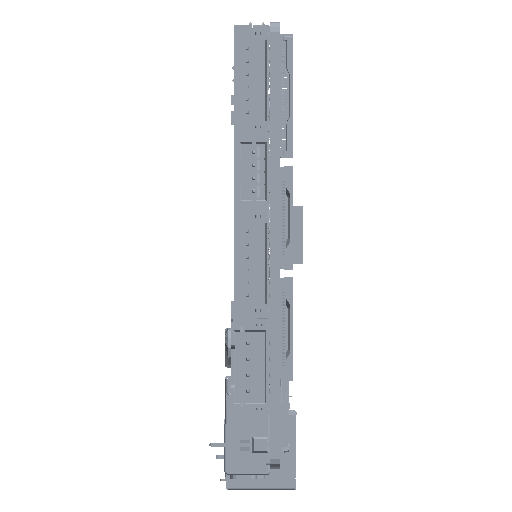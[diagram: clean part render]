
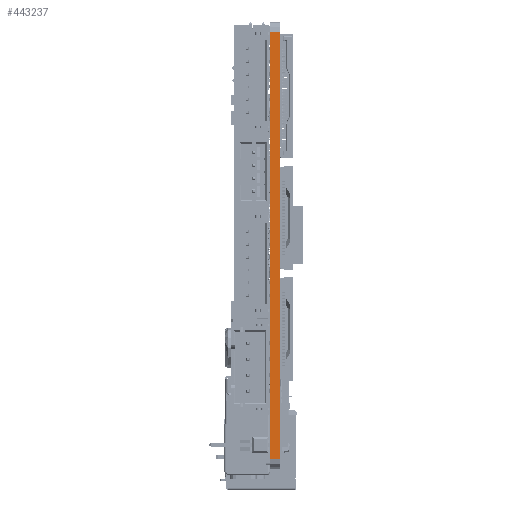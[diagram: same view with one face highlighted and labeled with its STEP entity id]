
A CAD part, left-side view. The second image highlights one B-rep face of the part: STEP entity #443237.
In plain terms, the highlighted planar face has unit normal (-1, 0, 0).
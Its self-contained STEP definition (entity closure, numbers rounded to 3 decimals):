
#23522 = VECTOR ( 'NONE', #890152, 1000. ) ;
#42973 = VERTEX_POINT ( 'NONE', #96140 ) ;
#82965 = AXIS2_PLACEMENT_3D ( 'NONE', #762754, #681545, #419094 ) ;
#96140 = CARTESIAN_POINT ( 'NONE',  ( 0., -1.6, -68.5 ) ) ;
#112580 = CARTESIAN_POINT ( 'NONE',  ( 0., 0., -1.5 ) ) ;
#130734 = EDGE_LOOP ( 'NONE', ( #786630, #618985, #565230, #588665 ) ) ;
#158993 = DIRECTION ( 'NONE',  ( 0., 1., 0. ) ) ;
#195124 = LINE ( 'NONE', #208401, #636826 ) ;
#204311 = VERTEX_POINT ( 'NONE', #531403 ) ;
#208401 = CARTESIAN_POINT ( 'NONE',  ( 0., -1.6, -1.5 ) ) ;
#229747 = DIRECTION ( 'NONE',  ( 0., 0., 1. ) ) ;
#371449 = LINE ( 'NONE', #792022, #479695 ) ;
#393423 = EDGE_CURVE ( 'NONE', #762600, #688316, #195124, .T. ) ;
#419094 = DIRECTION ( 'NONE',  ( 0., 0., 1. ) ) ;
#438738 = EDGE_CURVE ( 'NONE', #204311, #688316, #682064, .T. ) ;
#443237 = ADVANCED_FACE ( 'NONE', ( #889623 ), #554720, .T. ) ;
#447206 = VECTOR ( 'NONE', #229747, 1000. ) ;
#475305 = EDGE_CURVE ( 'NONE', #42973, #204311, #371449, .T. ) ;
#479695 = VECTOR ( 'NONE', #158993, 1000. ) ;
#531403 = CARTESIAN_POINT ( 'NONE',  ( 0., 0., -68.5 ) ) ;
#554720 = PLANE ( 'NONE',  #82965 ) ;
#565230 = ORIENTED_EDGE ( 'NONE', *, *, #614265, .T. ) ;
#569044 = LINE ( 'NONE', #700327, #447206 ) ;
#575597 = CARTESIAN_POINT ( 'NONE',  ( 0., -1.6, -1.5 ) ) ;
#588665 = ORIENTED_EDGE ( 'NONE', *, *, #393423, .T. ) ;
#614198 = CARTESIAN_POINT ( 'NONE',  ( 0., 0., -68.5 ) ) ;
#614265 = EDGE_CURVE ( 'NONE', #42973, #762600, #569044, .T. ) ;
#618985 = ORIENTED_EDGE ( 'NONE', *, *, #475305, .F. ) ;
#636826 = VECTOR ( 'NONE', #679025, 1000. ) ;
#679025 = DIRECTION ( 'NONE',  ( 0., 1., 0. ) ) ;
#681545 = DIRECTION ( 'NONE',  ( -1., 0., 0. ) ) ;
#682064 = LINE ( 'NONE', #614198, #23522 ) ;
#688316 = VERTEX_POINT ( 'NONE', #112580 ) ;
#700327 = CARTESIAN_POINT ( 'NONE',  ( 0., -1.6, -68.5 ) ) ;
#762600 = VERTEX_POINT ( 'NONE', #575597 ) ;
#762754 = CARTESIAN_POINT ( 'NONE',  ( 0., -1.6, -68.5 ) ) ;
#786630 = ORIENTED_EDGE ( 'NONE', *, *, #438738, .F. ) ;
#792022 = CARTESIAN_POINT ( 'NONE',  ( 0., -1.6, -68.5 ) ) ;
#889623 = FACE_OUTER_BOUND ( 'NONE', #130734, .T. ) ;
#890152 = DIRECTION ( 'NONE',  ( 0., 0., 1. ) ) ;
